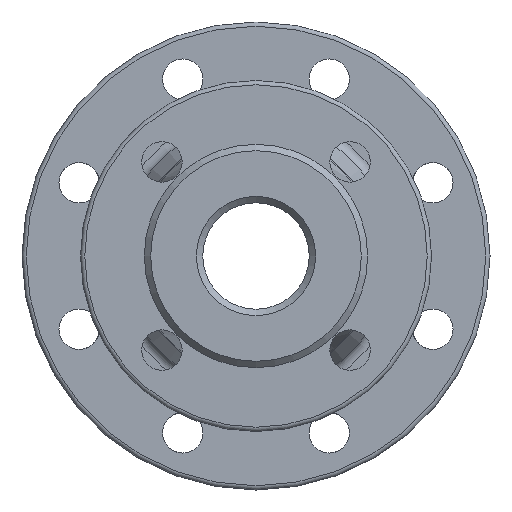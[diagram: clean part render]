
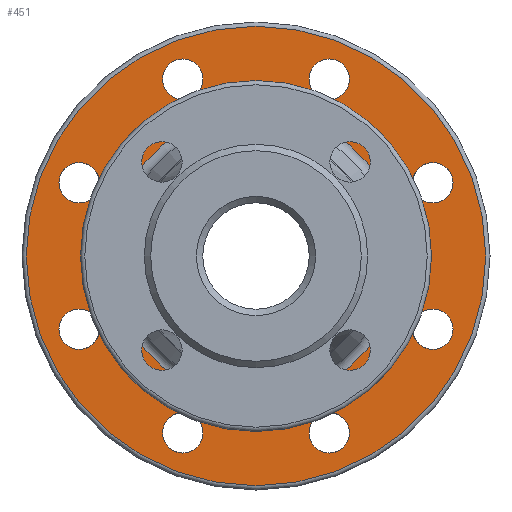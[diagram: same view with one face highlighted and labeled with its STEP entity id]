
A CAD part, left-side view. The second image highlights one B-rep face of the part: STEP entity #451.
In plain terms, the highlighted planar face has unit normal (-1, 0, 0).
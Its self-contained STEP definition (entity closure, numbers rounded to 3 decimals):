
#9 = CIRCLE ( 'NONE', #2406, 9.5 ) ;
#50 = CIRCLE ( 'NONE', #404, 9.5 ) ;
#74 = EDGE_CURVE ( 'NONE', #836, #836, #230, .T. ) ;
#95 = FACE_BOUND ( 'NONE', #710, .T. ) ;
#136 = CIRCLE ( 'NONE', #1806, 9.5 ) ;
#149 = DIRECTION ( 'NONE',  ( 0., 0., -1. ) ) ;
#178 = EDGE_LOOP ( 'NONE', ( #725 ) ) ;
#185 = AXIS2_PLACEMENT_3D ( 'NONE', #1333, #2185, #458 ) ;
#230 = CIRCLE ( 'NONE', #316, 68.185 ) ;
#250 = CARTESIAN_POINT ( 'NONE',  ( 181., 34.442, -83.149 ) ) ;
#251 = CARTESIAN_POINT ( 'NONE',  ( 181., -83.149, -34.442 ) ) ;
#279 = DIRECTION ( 'NONE',  ( 1., 0., 0. ) ) ;
#292 = DIRECTION ( 'NONE',  ( 1., 0., 0. ) ) ;
#307 = DIRECTION ( 'NONE',  ( 0., 0., -1. ) ) ;
#316 = AXIS2_PLACEMENT_3D ( 'NONE', #2139, #292, #1515 ) ;
#327 = VERTEX_POINT ( 'NONE', #950 ) ;
#339 = ORIENTED_EDGE ( 'NONE', *, *, #1328, .T. ) ;
#400 = DIRECTION ( 'NONE',  ( 0., 0., -1. ) ) ;
#404 = AXIS2_PLACEMENT_3D ( 'NONE', #251, #1726, #307 ) ;
#433 = EDGE_LOOP ( 'NONE', ( #1952 ) ) ;
#451 = ADVANCED_FACE ( 'NONE', ( #2007, #2379, #750, #734, #2604, #2424, #95, #924, #2235, #499 ), #542, .F. ) ;
#458 = DIRECTION ( 'NONE',  ( 0., 0., -1. ) ) ;
#471 = ORIENTED_EDGE ( 'NONE', *, *, #939, .T. ) ;
#499 = FACE_BOUND ( 'NONE', #999, .T. ) ;
#517 = AXIS2_PLACEMENT_3D ( 'NONE', #1785, #1801, #149 ) ;
#542 = PLANE ( 'NONE',  #2534 ) ;
#546 = ORIENTED_EDGE ( 'NONE', *, *, #1420, .T. ) ;
#606 = VERTEX_POINT ( 'NONE', #620 ) ;
#620 = CARTESIAN_POINT ( 'NONE',  ( 181., 0., -108. ) ) ;
#640 = ORIENTED_EDGE ( 'NONE', *, *, #764, .T. ) ;
#710 = EDGE_LOOP ( 'NONE', ( #989 ) ) ;
#725 = ORIENTED_EDGE ( 'NONE', *, *, #1474, .T. ) ;
#734 = FACE_BOUND ( 'NONE', #1826, .T. ) ;
#750 = FACE_BOUND ( 'NONE', #433, .T. ) ;
#752 = AXIS2_PLACEMENT_3D ( 'NONE', #1025, #827, #2064 ) ;
#764 = EDGE_CURVE ( 'NONE', #1268, #1268, #50, .T. ) ;
#769 = EDGE_CURVE ( 'NONE', #1900, #1900, #1849, .T. ) ;
#813 = CARTESIAN_POINT ( 'NONE',  ( 181., -34.442, 73.649 ) ) ;
#822 = CARTESIAN_POINT ( 'NONE',  ( 181., -83.149, 34.442 ) ) ;
#827 = DIRECTION ( 'NONE',  ( -1., 0., 0. ) ) ;
#836 = VERTEX_POINT ( 'NONE', #1042 ) ;
#924 = FACE_BOUND ( 'NONE', #1736, .T. ) ;
#939 = EDGE_CURVE ( 'NONE', #606, #606, #1756, .T. ) ;
#950 = CARTESIAN_POINT ( 'NONE',  ( 181., -83.149, 24.942 ) ) ;
#989 = ORIENTED_EDGE ( 'NONE', *, *, #2662, .T. ) ;
#999 = EDGE_LOOP ( 'NONE', ( #339 ) ) ;
#1017 = DIRECTION ( 'NONE',  ( 1., 0., 0. ) ) ;
#1025 = CARTESIAN_POINT ( 'NONE',  ( 181., 0., 0. ) ) ;
#1042 = CARTESIAN_POINT ( 'NONE',  ( 181., 0., -68.185 ) ) ;
#1067 = CARTESIAN_POINT ( 'NONE',  ( 181., -83.149, -43.942 ) ) ;
#1081 = DIRECTION ( 'NONE',  ( 0., 0., -1. ) ) ;
#1082 = CARTESIAN_POINT ( 'NONE',  ( 181., 83.149, 34.442 ) ) ;
#1096 = AXIS2_PLACEMENT_3D ( 'NONE', #1082, #2161, #1100 ) ;
#1100 = DIRECTION ( 'NONE',  ( 0., 0., -1. ) ) ;
#1119 = DIRECTION ( 'NONE',  ( 0., 0., -1. ) ) ;
#1120 = VERTEX_POINT ( 'NONE', #2591 ) ;
#1155 = ORIENTED_EDGE ( 'NONE', *, *, #1265, .T. ) ;
#1196 = EDGE_LOOP ( 'NONE', ( #1155 ) ) ;
#1248 = CARTESIAN_POINT ( 'NONE',  ( 181., 34.442, -92.649 ) ) ;
#1265 = EDGE_CURVE ( 'NONE', #2683, #2683, #2363, .T. ) ;
#1268 = VERTEX_POINT ( 'NONE', #1067 ) ;
#1274 = CIRCLE ( 'NONE', #517, 9.5 ) ;
#1328 = EDGE_CURVE ( 'NONE', #2095, #2095, #136, .T. ) ;
#1333 = CARTESIAN_POINT ( 'NONE',  ( 181., 34.442, 83.149 ) ) ;
#1357 = DIRECTION ( 'NONE',  ( 0., 0., -1. ) ) ;
#1381 = DIRECTION ( 'NONE',  ( 1., 0., 0. ) ) ;
#1420 = EDGE_CURVE ( 'NONE', #1468, #1468, #1447, .T. ) ;
#1447 = CIRCLE ( 'NONE', #185, 9.5 ) ;
#1451 = CIRCLE ( 'NONE', #2619, 9.5 ) ;
#1468 = VERTEX_POINT ( 'NONE', #2305 ) ;
#1474 = EDGE_CURVE ( 'NONE', #2281, #2281, #1274, .T. ) ;
#1515 = DIRECTION ( 'NONE',  ( 0., 0., -1. ) ) ;
#1569 = CARTESIAN_POINT ( 'NONE',  ( 181., 65., 0. ) ) ;
#1656 = CARTESIAN_POINT ( 'NONE',  ( 181., -34.442, -92.649 ) ) ;
#1701 = DIRECTION ( 'NONE',  ( 1., 0., 0. ) ) ;
#1726 = DIRECTION ( 'NONE',  ( 1., 0., 0. ) ) ;
#1736 = EDGE_LOOP ( 'NONE', ( #640 ) ) ;
#1756 = CIRCLE ( 'NONE', #752, 108. ) ;
#1785 = CARTESIAN_POINT ( 'NONE',  ( 181., -34.442, -83.149 ) ) ;
#1795 = AXIS2_PLACEMENT_3D ( 'NONE', #2621, #1823, #1357 ) ;
#1801 = DIRECTION ( 'NONE',  ( 1., 0., 0. ) ) ;
#1806 = AXIS2_PLACEMENT_3D ( 'NONE', #250, #279, #1081 ) ;
#1823 = DIRECTION ( 'NONE',  ( 1., 0., 0. ) ) ;
#1826 = EDGE_LOOP ( 'NONE', ( #2274 ) ) ;
#1848 = EDGE_CURVE ( 'NONE', #1120, #1120, #9, .T. ) ;
#1849 = CIRCLE ( 'NONE', #1096, 9.5 ) ;
#1900 = VERTEX_POINT ( 'NONE', #2332 ) ;
#1946 = EDGE_LOOP ( 'NONE', ( #471 ) ) ;
#1947 = EDGE_LOOP ( 'NONE', ( #546 ) ) ;
#1952 = ORIENTED_EDGE ( 'NONE', *, *, #1848, .T. ) ;
#2007 = FACE_BOUND ( 'NONE', #2602, .T. ) ;
#2064 = DIRECTION ( 'NONE',  ( 0., 0., -1. ) ) ;
#2095 = VERTEX_POINT ( 'NONE', #1248 ) ;
#2139 = CARTESIAN_POINT ( 'NONE',  ( 181., 0., 0. ) ) ;
#2161 = DIRECTION ( 'NONE',  ( 1., 0., 0. ) ) ;
#2185 = DIRECTION ( 'NONE',  ( 1., 0., 0. ) ) ;
#2235 = FACE_BOUND ( 'NONE', #178, .T. ) ;
#2263 = ORIENTED_EDGE ( 'NONE', *, *, #74, .T. ) ;
#2274 = ORIENTED_EDGE ( 'NONE', *, *, #769, .T. ) ;
#2281 = VERTEX_POINT ( 'NONE', #1656 ) ;
#2305 = CARTESIAN_POINT ( 'NONE',  ( 181., 34.442, 73.649 ) ) ;
#2332 = CARTESIAN_POINT ( 'NONE',  ( 181., 83.149, 24.942 ) ) ;
#2363 = CIRCLE ( 'NONE', #1795, 9.5 ) ;
#2379 = FACE_OUTER_BOUND ( 'NONE', #1946, .T. ) ;
#2406 = AXIS2_PLACEMENT_3D ( 'NONE', #2665, #1017, #400 ) ;
#2424 = FACE_BOUND ( 'NONE', #1196, .T. ) ;
#2523 = DIRECTION ( 'NONE',  ( 0., 0., -1. ) ) ;
#2534 = AXIS2_PLACEMENT_3D ( 'NONE', #1569, #1381, #1119 ) ;
#2591 = CARTESIAN_POINT ( 'NONE',  ( 181., 83.149, -43.942 ) ) ;
#2602 = EDGE_LOOP ( 'NONE', ( #2263 ) ) ;
#2604 = FACE_BOUND ( 'NONE', #1947, .T. ) ;
#2619 = AXIS2_PLACEMENT_3D ( 'NONE', #822, #1701, #2523 ) ;
#2621 = CARTESIAN_POINT ( 'NONE',  ( 181., -34.442, 83.149 ) ) ;
#2662 = EDGE_CURVE ( 'NONE', #327, #327, #1451, .T. ) ;
#2665 = CARTESIAN_POINT ( 'NONE',  ( 181., 83.149, -34.442 ) ) ;
#2683 = VERTEX_POINT ( 'NONE', #813 ) ;
